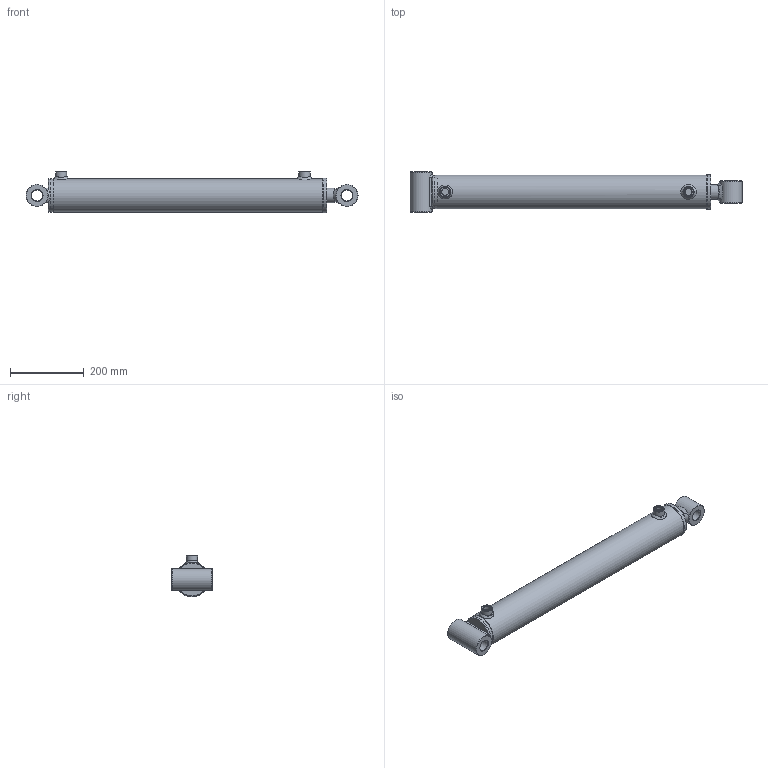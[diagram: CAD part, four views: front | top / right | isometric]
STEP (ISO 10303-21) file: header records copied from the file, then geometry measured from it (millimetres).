
FILE_DESCRIPTION( ( 'Unknown' ), '1' );
FILE_NAME( 'E:/LIBRERIA_3d/CILINDRI/HM2/HM25400600.stp', 'Unknown', ( 'Unknown' ), ( 'Unknown' ), 'PSStep 17.0.49', 'Unknown', ' ' );
FILE_SCHEMA( ( 'AUTOMOTIVE_DESIGN { 1 0 10303 214 1 1 1 1 }' ) );
Length unit declared in the file: millimetre
Products named in the file (25): CG09508040; CT00080027; STL5600600-oa6; Saldatura d'angolo 1-oa4; CBS0800000; FTM5600600-oa5; HM05400600; Saldatura con preparazione 1-oa2; Saldatura d'angolo 1-oa3; CF00080090; CDA0002720; APG0800000; SBL4050600; Assem1; CB30060060; CB30060110; Saldatura d'angolo 1-oa0; Saldatura d'angolo 2-oa1
Assembly tree (18 placements, depth 4):
  Saldatura d'angolo 1-oa4
  Saldatura d'angolo 1-oa4
  Saldatura d'angolo 1-oa3
  Saldatura d'angolo 1-oa3
  Assem1
    CB30060060
    CB30060110
    HM05400600
      Saldatura con preparazione 1-oa2
      Saldatura con preparazione 1-oa2
      CF00080090
      CBS0800000
      CDA0002720
      APG0800000  x2
      SBL4050600
      CG09508040
        CG09508040
      CT00080027
        CT00080027
      STL5600600-oa6
        CBS0800000
        FTM5600600-oa5
Bounding box: 900 x 110 x 113 mm (x, y, z)
Volume: 2979549.6 mm3; surface area: 685563.8 mm2
Topology: 22 solids, 22 shells, 284 faces, 582 edges, 349 vertices
Faces by surface type: plane 76, bspline 72, cylinder 60, cone 40, torus 36
Full cylindrical faces by diameter (mm): 4.25 x1, 8 x2, 12 x1, 18.631 x2, 19.5 x2, 20.95 x2, 26 x2, 26.4 x1, 27 x5, 30 x2, 30.25 x2, 33.2 x1, 40 x5, 41 x1, 43 x3, 48.6 x1, 50 x1, 60 x3, 74.16 x2, 75 x1, 78.34 x2, 79.9 x1, 80 x1, 80.3 x1, 80.5 x1, 80.6 x1, 81 x1, 82 x3, 82.835 x1, 85 x1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
Entity records: 18917 total; most frequent: CARTESIAN_POINT 11883, DIRECTION 846, ORIENTED_EDGE 768, EDGE_LOOP 451, AXIS2_PLACEMENT_3D 404, EDGE_CURVE 384, FACE_OUTER_BOUND 372, VERTEX_POINT 298
